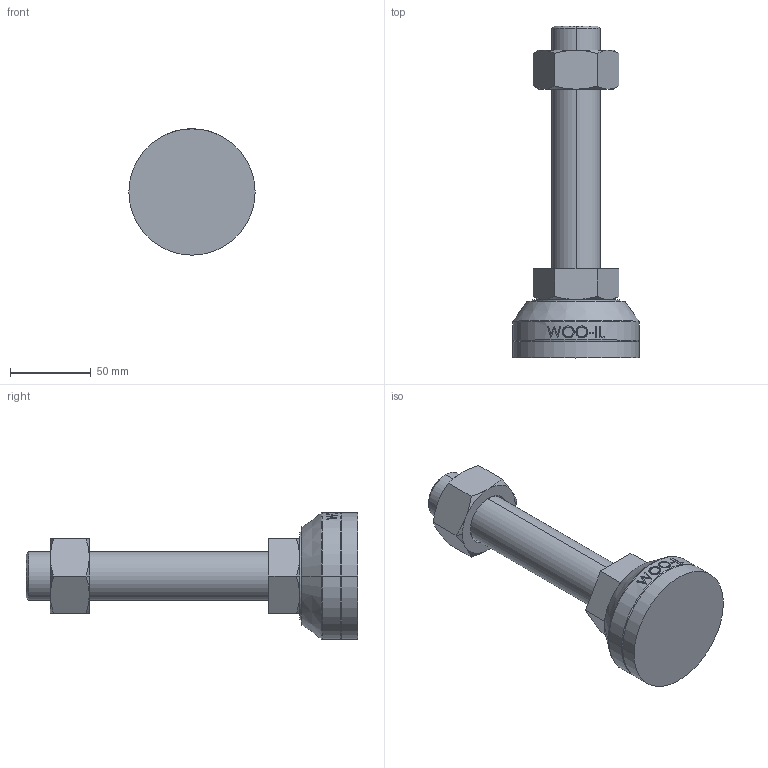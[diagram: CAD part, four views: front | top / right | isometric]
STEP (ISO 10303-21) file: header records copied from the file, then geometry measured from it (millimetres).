
FILE_DESCRIPTION (( 'STEP AP214' ), '1' );
FILE_NAME ('MFR78-M30-150.step', '2021-01-13T05:41:25', ( '' ), ( '' ), 'SwSTEP 2.0', 'SolidWorks 2019', '' );
FILE_SCHEMA (( 'AUTOMOTIVE_DESIGN' ));
Length unit declared in the file: millimetre
Products named in the file (2): MFR78-M30-150
Bounding box: 78 x 205 x 78 mm (x, y, z)
Volume: 324098.9 mm3; surface area: 54821.6 mm2
Topology: 4 solids, 4 shells, 118 faces, 283 edges, 183 vertices
Faces by surface type: plane 49, cone 29, cylinder 18, bspline 16, torus 6
Entity records: 4990 total; most frequent: CARTESIAN_POINT 2312, ORIENTED_EDGE 566, DIRECTION 492, EDGE_CURVE 283, AXIS2_PLACEMENT_3D 189, VERTEX_POINT 183, EDGE_LOOP 130, FACE_OUTER_BOUND 118
